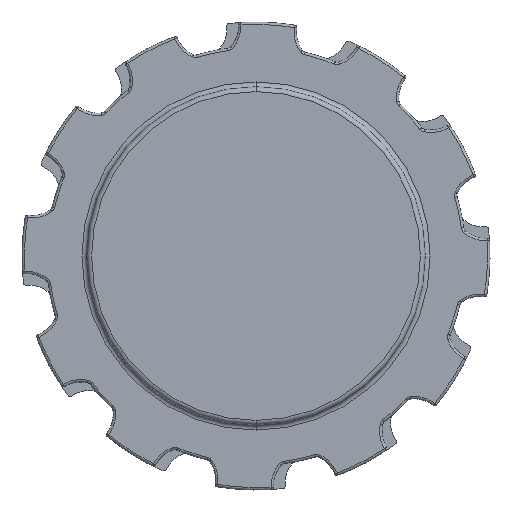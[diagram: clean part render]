
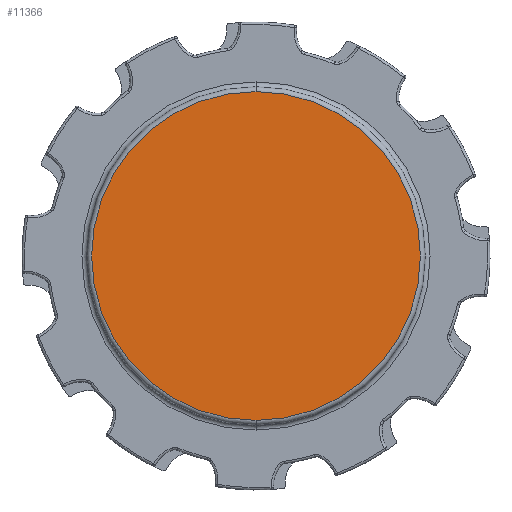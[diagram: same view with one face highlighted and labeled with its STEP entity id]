
A CAD part, left-side view. The second image highlights one B-rep face of the part: STEP entity #11366.
In plain terms, the highlighted planar face has unit normal (-1, 0, 0).
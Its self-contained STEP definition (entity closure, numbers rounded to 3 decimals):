
#764=CARTESIAN_POINT('',(-12.5,0.,0.));
#765=DIRECTION('',(-1.,0.,0.));
#766=DIRECTION('',(0.,0.,-1.));
#767=AXIS2_PLACEMENT_3D('',#764,#765,#766);
#769=CARTESIAN_POINT('',(-12.5,0.,0.));
#770=DIRECTION('',(1.,0.,0.));
#771=DIRECTION('',(0.,0.,-1.));
#772=AXIS2_PLACEMENT_3D('',#769,#770,#771);
#8430=CARTESIAN_POINT('',(-12.5,0.,-34.));
#8431=VERTEX_POINT('',#8430);
#8438=CARTESIAN_POINT('',(-12.5,0.,34.));
#8439=VERTEX_POINT('',#8438);
#11357=CARTESIAN_POINT('',(-12.5,0.,0.));
#11358=DIRECTION('',(1.,0.,0.));
#11359=DIRECTION('',(0.,0.,1.));
#11360=AXIS2_PLACEMENT_3D('',#11357,#11358,#11359);
#11361=PLANE('',#11360);
#11362=ORIENTED_EDGE('',*,*,#11350,.F.);
#11363=ORIENTED_EDGE('',*,*,#11339,.T.);
#11364=EDGE_LOOP('',(#11362,#11363));
#11365=FACE_OUTER_BOUND('',#11364,.F.);
#11366=ADVANCED_FACE('',(#11365),#11361,.F.);
#768=CIRCLE('',#767,34.);
#773=CIRCLE('',#772,34.);
#11339=EDGE_CURVE('',#8431,#8439,#773,.T.);
#11350=EDGE_CURVE('',#8431,#8439,#768,.T.);
